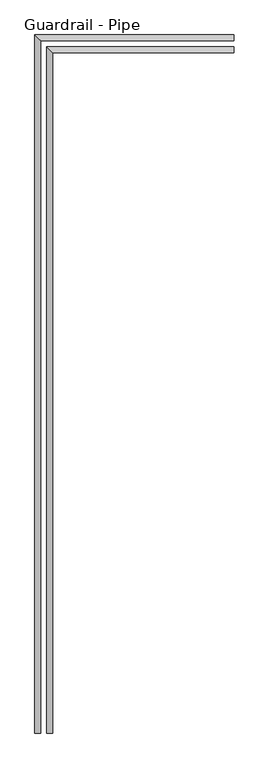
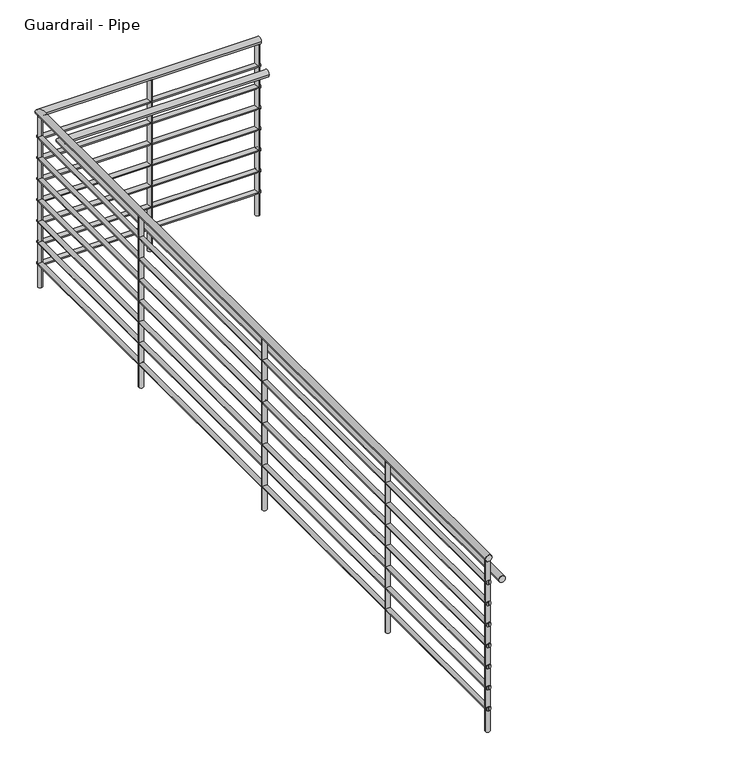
"""IFC4 building model written with IfcOpenShell, lengths in millimetres: railing geometry, Guardrail - Pipe."""

from ifc_helpers import new_model, si_unit, point, frame, frame_2d, origin, origin_with_axes, place, context, project, spatial, circle_curve, ellipse_curve, trimmed, segment, composite_curve, outline, extrude, source, transform, mapped, element, save
from ifc_brep_helpers import plane_surface, cylinder_surface, advanced_brep


def guardrail_pipe_2ce98fbd(model_context):
    return source(origin(), model_context, "Body", "SolidModel", [
        advanced_brep(
        [(-2073.0939612, 2865.859643, 1047.75), (-2073.0939612, 2903.959643, 1047.75), (-3304.9939612, 2865.859643, 1047.75), (-3343.0939612, 2903.959643, 1047.75), (-3304.9939612, -1546.6414366, 1047.75), (-3343.0939612, -1546.6414366, 1047.75)],
        [
            (0, 1, circle_curve(frame((-2073.0939612, 2884.909643, 1047.75), z_axis=(1.0, 0.0, 0.0), x_axis=(0.0, 1.0, 0.0)), 19.05)),
            (1, 0, circle_curve(frame((-2073.0939612, 2884.909643, 1047.75), z_axis=(1.0, 0.0, 0.0), x_axis=(0.0, 1.0, 0.0)), 19.05)),
            (0, 2),
            (2, 3, ellipse_curve(frame((-3324.0439612, 2884.909643, 1047.75), z_axis=(0.7071067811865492, 0.7071067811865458, 0.0), x_axis=(0.7071067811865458, -0.7071067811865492, 0.0)), 26.9407684, 19.05)),
            (3, 1),
            (3, 2, ellipse_curve(frame((-3324.0439612, 2884.909643, 1047.75), z_axis=(0.7071067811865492, 0.7071067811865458, 0.0), x_axis=(0.7071067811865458, -0.7071067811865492, 0.0)), 26.9407684, 19.05)),
            (4, 5, circle_curve(frame((-3324.0439612, -1546.6414366, 1047.75), z_axis=(0.0, -1.0, 0.0), x_axis=(-1.0, 0.0, 0.0)), 19.05)),
            (5, 4, circle_curve(frame((-3324.0439612, -1546.6414366, 1047.75), z_axis=(0.0, -1.0, 0.0), x_axis=(-1.0, 0.0, 0.0)), 19.05)),
            (2, 4),
            (5, 3),
        ],
        [
            plane_surface(frame((-2073.0939612, 2884.909643, 1066.8), z_axis=(1.0, 0.0, 0.0), x_axis=(0.0, -1.0, 0.0))),
            cylinder_surface(frame((-2073.0939612, 2884.909643, 1047.75), z_axis=(1.0, 0.0, 0.0), x_axis=(0.0, 1.0, 0.0)), 19.05),
            plane_surface(frame((-3324.0439612, -1546.6414366, 1066.8), z_axis=(0.0, -1.0, 0.0), x_axis=(0.0, 0.0, -1.0))),
            cylinder_surface(frame((-3324.0439612, 2884.909643, 1047.75), z_axis=(0.0, 1.0, 0.0), x_axis=(-1.0, 0.0, 0.0)), 19.05),
        ],
        [
            (0, [[1, 2]]),
            (1, [[-1, 3, 4, 5]]),
            (1, [[-2, -5, 6, -3]]),
            (2, [[7, 8]]),
            (3, [[-4, 9, -8, 10]]),
            (3, [[-6, -10, -7, -9]]),
        ],
    ),
        advanced_brep(
        [(-2073.0939612, 2872.209643, 901.7), (-2073.0939612, 2897.609643, 901.7), (-3311.3439612, 2872.209643, 901.7), (-3336.7439612, 2897.609643, 901.7), (-3311.3439612, -1546.6414366, 901.7), (-3336.7439612, -1546.6414366, 901.7)],
        [
            (0, 1, circle_curve(frame((-2073.0939612, 2884.909643, 901.7), z_axis=(1.0, 0.0, 0.0), x_axis=(0.0, 1.0, 0.0)), 12.7)),
            (1, 0, circle_curve(frame((-2073.0939612, 2884.909643, 901.7), z_axis=(1.0, 0.0, 0.0), x_axis=(0.0, 1.0, 0.0)), 12.7)),
            (0, 2),
            (2, 3, ellipse_curve(frame((-3324.0439612, 2884.909643, 901.7), z_axis=(0.7071067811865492, 0.7071067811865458, 0.0), x_axis=(0.7071067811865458, -0.7071067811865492, 0.0)), 17.9605122, 12.7)),
            (3, 1),
            (3, 2, ellipse_curve(frame((-3324.0439612, 2884.909643, 901.7), z_axis=(0.7071067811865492, 0.7071067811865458, 0.0), x_axis=(0.7071067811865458, -0.7071067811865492, 0.0)), 17.9605122, 12.7)),
            (4, 5, circle_curve(frame((-3324.0439612, -1546.6414366, 901.7), z_axis=(0.0, -1.0, 0.0), x_axis=(-1.0, 0.0, 0.0)), 12.7)),
            (5, 4, circle_curve(frame((-3324.0439612, -1546.6414366, 901.7), z_axis=(0.0, -1.0, 0.0), x_axis=(-1.0, 0.0, 0.0)), 12.7)),
            (2, 4),
            (5, 3),
        ],
        [
            plane_surface(frame((-2073.0939612, 2884.909643, 914.4), z_axis=(1.0, 0.0, 0.0), x_axis=(0.0, -1.0, 0.0))),
            cylinder_surface(frame((-2073.0939612, 2884.909643, 901.7), z_axis=(1.0, 0.0, 0.0), x_axis=(0.0, 1.0, 0.0)), 12.7),
            plane_surface(frame((-3324.0439612, -1546.6414366, 914.4), z_axis=(0.0, -1.0, 0.0), x_axis=(0.0, 0.0, -1.0))),
            cylinder_surface(frame((-3324.0439612, 2884.909643, 901.7), z_axis=(0.0, 1.0, 0.0), x_axis=(-1.0, 0.0, 0.0)), 12.7),
        ],
        [
            (0, [[1, 2]]),
            (1, [[-1, 3, 4, 5]]),
            (1, [[-2, -5, 6, -3]]),
            (2, [[7, 8]]),
            (3, [[-4, 9, -8, 10]]),
            (3, [[-6, -10, -7, -9]]),
        ],
    ),
        advanced_brep(
        [(-2073.0939612, 2789.659643, 895.35), (-2073.0939612, 2827.759643, 895.35), (-3228.7939612, 2789.659643, 895.35), (-3266.8939612, 2827.759643, 895.35), (-3228.7939612, -1546.6414366, 895.35), (-3266.8939612, -1546.6414366, 895.35)],
        [
            (0, 1, circle_curve(frame((-2073.0939612, 2808.709643, 895.35), z_axis=(1.0, 0.0, 0.0), x_axis=(0.0, 1.0, 0.0)), 19.05)),
            (1, 0, circle_curve(frame((-2073.0939612, 2808.709643, 895.35), z_axis=(1.0, 0.0, 0.0), x_axis=(0.0, 1.0, 0.0)), 19.05)),
            (0, 2),
            (2, 3, ellipse_curve(frame((-3247.8439612, 2808.709643, 895.35), z_axis=(0.7071067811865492, 0.7071067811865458, 0.0), x_axis=(0.7071067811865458, -0.7071067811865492, 0.0)), 26.9407684, 19.05)),
            (3, 1),
            (3, 2, ellipse_curve(frame((-3247.8439612, 2808.709643, 895.35), z_axis=(0.7071067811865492, 0.7071067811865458, 0.0), x_axis=(0.7071067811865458, -0.7071067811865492, 0.0)), 26.9407684, 19.05)),
            (4, 5, circle_curve(frame((-3247.8439612, -1546.6414366, 895.35), z_axis=(0.0, -1.0, 0.0), x_axis=(-1.0, 0.0, 0.0)), 19.05)),
            (5, 4, circle_curve(frame((-3247.8439612, -1546.6414366, 895.35), z_axis=(0.0, -1.0, 0.0), x_axis=(-1.0, 0.0, 0.0)), 19.05)),
            (2, 4),
            (5, 3),
        ],
        [
            plane_surface(frame((-2073.0939612, 2808.709643, 914.4), z_axis=(1.0, 0.0, 0.0), x_axis=(0.0, -1.0, 0.0))),
            cylinder_surface(frame((-2073.0939612, 2808.709643, 895.35), z_axis=(1.0, 0.0, 0.0), x_axis=(0.0, 1.0, 0.0)), 19.05),
            plane_surface(frame((-3247.8439612, -1546.6414366, 914.4), z_axis=(0.0, -1.0, 0.0), x_axis=(0.0, 0.0, -1.0))),
            cylinder_surface(frame((-3247.8439612, 2808.709643, 895.35), z_axis=(0.0, 1.0, 0.0), x_axis=(-1.0, 0.0, 0.0)), 19.05),
        ],
        [
            (0, [[1, 2]]),
            (1, [[-1, 3, 4, 5]]),
            (1, [[-2, -5, 6, -3]]),
            (2, [[7, 8]]),
            (3, [[-4, 9, -8, 10]]),
            (3, [[-6, -10, -7, -9]]),
        ],
    ),
        advanced_brep(
        [(-2073.0939612, 2872.209643, 774.7), (-2073.0939612, 2897.609643, 774.7), (-3311.3439612, 2872.209643, 774.7), (-3336.7439612, 2897.609643, 774.7), (-3311.3439612, -1546.6414366, 774.7), (-3336.7439612, -1546.6414366, 774.7)],
        [
            (0, 1, circle_curve(frame((-2073.0939612, 2884.909643, 774.7), z_axis=(1.0, 0.0, 0.0), x_axis=(0.0, 1.0, 0.0)), 12.7)),
            (1, 0, circle_curve(frame((-2073.0939612, 2884.909643, 774.7), z_axis=(1.0, 0.0, 0.0), x_axis=(0.0, 1.0, 0.0)), 12.7)),
            (0, 2),
            (2, 3, ellipse_curve(frame((-3324.0439612, 2884.909643, 774.7), z_axis=(0.7071067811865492, 0.7071067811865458, 0.0), x_axis=(0.7071067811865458, -0.7071067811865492, 0.0)), 17.9605122, 12.7)),
            (3, 1),
            (3, 2, ellipse_curve(frame((-3324.0439612, 2884.909643, 774.7), z_axis=(0.7071067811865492, 0.7071067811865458, 0.0), x_axis=(0.7071067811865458, -0.7071067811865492, 0.0)), 17.9605122, 12.7)),
            (4, 5, circle_curve(frame((-3324.0439612, -1546.6414366, 774.7), z_axis=(0.0, -1.0, 0.0), x_axis=(-1.0, 0.0, 0.0)), 12.7)),
            (5, 4, circle_curve(frame((-3324.0439612, -1546.6414366, 774.7), z_axis=(0.0, -1.0, 0.0), x_axis=(-1.0, 0.0, 0.0)), 12.7)),
            (2, 4),
            (5, 3),
        ],
        [
            plane_surface(frame((-2073.0939612, 2884.909643, 787.4), z_axis=(1.0, 0.0, 0.0), x_axis=(0.0, -1.0, 0.0))),
            cylinder_surface(frame((-2073.0939612, 2884.909643, 774.7), z_axis=(1.0, 0.0, 0.0), x_axis=(0.0, 1.0, 0.0)), 12.7),
            plane_surface(frame((-3324.0439612, -1546.6414366, 787.4), z_axis=(0.0, -1.0, 0.0), x_axis=(0.0, 0.0, -1.0))),
            cylinder_surface(frame((-3324.0439612, 2884.909643, 774.7), z_axis=(0.0, 1.0, 0.0), x_axis=(-1.0, 0.0, 0.0)), 12.7),
        ],
        [
            (0, [[1, 2]]),
            (1, [[-1, 3, 4, 5]]),
            (1, [[-2, -5, 6, -3]]),
            (2, [[7, 8]]),
            (3, [[-4, 9, -8, 10]]),
            (3, [[-6, -10, -7, -9]]),
        ],
    ),
        advanced_brep(
        [(-2073.0939612, 2872.209643, 647.7), (-2073.0939612, 2897.609643, 647.7), (-3311.3439612, 2872.209643, 647.7), (-3336.7439612, 2897.609643, 647.7), (-3311.3439612, -1546.6414366, 647.7), (-3336.7439612, -1546.6414366, 647.7)],
        [
            (0, 1, circle_curve(frame((-2073.0939612, 2884.909643, 647.7), z_axis=(1.0, 0.0, 0.0), x_axis=(0.0, 1.0, 0.0)), 12.7)),
            (1, 0, circle_curve(frame((-2073.0939612, 2884.909643, 647.7), z_axis=(1.0, 0.0, 0.0), x_axis=(0.0, 1.0, 0.0)), 12.7)),
            (0, 2),
            (2, 3, ellipse_curve(frame((-3324.0439612, 2884.909643, 647.7), z_axis=(0.7071067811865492, 0.7071067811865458, 0.0), x_axis=(0.7071067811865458, -0.7071067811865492, 0.0)), 17.9605122, 12.7)),
            (3, 1),
            (3, 2, ellipse_curve(frame((-3324.0439612, 2884.909643, 647.7), z_axis=(0.7071067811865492, 0.7071067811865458, 0.0), x_axis=(0.7071067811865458, -0.7071067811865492, 0.0)), 17.9605122, 12.7)),
            (4, 5, circle_curve(frame((-3324.0439612, -1546.6414366, 647.7), z_axis=(0.0, -1.0, 0.0), x_axis=(-1.0, 0.0, 0.0)), 12.7)),
            (5, 4, circle_curve(frame((-3324.0439612, -1546.6414366, 647.7), z_axis=(0.0, -1.0, 0.0), x_axis=(-1.0, 0.0, 0.0)), 12.7)),
            (2, 4),
            (5, 3),
        ],
        [
            plane_surface(frame((-2073.0939612, 2884.909643, 660.4), z_axis=(1.0, 0.0, 0.0), x_axis=(0.0, -1.0, 0.0))),
            cylinder_surface(frame((-2073.0939612, 2884.909643, 647.7), z_axis=(1.0, 0.0, 0.0), x_axis=(0.0, 1.0, 0.0)), 12.7),
            plane_surface(frame((-3324.0439612, -1546.6414366, 660.4), z_axis=(0.0, -1.0, 0.0), x_axis=(0.0, 0.0, -1.0))),
            cylinder_surface(frame((-3324.0439612, 2884.909643, 647.7), z_axis=(0.0, 1.0, 0.0), x_axis=(-1.0, 0.0, 0.0)), 12.7),
        ],
        [
            (0, [[1, 2]]),
            (1, [[-1, 3, 4, 5]]),
            (1, [[-2, -5, 6, -3]]),
            (2, [[7, 8]]),
            (3, [[-4, 9, -8, 10]]),
            (3, [[-6, -10, -7, -9]]),
        ],
    ),
        advanced_brep(
        [(-2073.0939612, 2872.209643, 520.7), (-2073.0939612, 2897.609643, 520.7), (-3311.3439612, 2872.209643, 520.7), (-3336.7439612, 2897.609643, 520.7), (-3311.3439612, -1546.6414366, 520.7), (-3336.7439612, -1546.6414366, 520.7)],
        [
            (0, 1, circle_curve(frame((-2073.0939612, 2884.909643, 520.7), z_axis=(1.0, 0.0, 0.0), x_axis=(0.0, 1.0, 0.0)), 12.7)),
            (1, 0, circle_curve(frame((-2073.0939612, 2884.909643, 520.7), z_axis=(1.0, 0.0, 0.0), x_axis=(0.0, 1.0, 0.0)), 12.7)),
            (0, 2),
            (2, 3, ellipse_curve(frame((-3324.0439612, 2884.909643, 520.7), z_axis=(0.7071067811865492, 0.7071067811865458, 0.0), x_axis=(0.7071067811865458, -0.7071067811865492, 0.0)), 17.9605122, 12.7)),
            (3, 1),
            (3, 2, ellipse_curve(frame((-3324.0439612, 2884.909643, 520.7), z_axis=(0.7071067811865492, 0.7071067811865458, 0.0), x_axis=(0.7071067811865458, -0.7071067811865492, 0.0)), 17.9605122, 12.7)),
            (4, 5, circle_curve(frame((-3324.0439612, -1546.6414366, 520.7), z_axis=(0.0, -1.0, 0.0), x_axis=(-1.0, 0.0, 0.0)), 12.7)),
            (5, 4, circle_curve(frame((-3324.0439612, -1546.6414366, 520.7), z_axis=(0.0, -1.0, 0.0), x_axis=(-1.0, 0.0, 0.0)), 12.7)),
            (2, 4),
            (5, 3),
        ],
        [
            plane_surface(frame((-2073.0939612, 2884.909643, 533.4), z_axis=(1.0, 0.0, 0.0), x_axis=(0.0, -1.0, 0.0))),
            cylinder_surface(frame((-2073.0939612, 2884.909643, 520.7), z_axis=(1.0, 0.0, 0.0), x_axis=(0.0, 1.0, 0.0)), 12.7),
            plane_surface(frame((-3324.0439612, -1546.6414366, 533.4), z_axis=(0.0, -1.0, 0.0), x_axis=(0.0, 0.0, -1.0))),
            cylinder_surface(frame((-3324.0439612, 2884.909643, 520.7), z_axis=(0.0, 1.0, 0.0), x_axis=(-1.0, 0.0, 0.0)), 12.7),
        ],
        [
            (0, [[1, 2]]),
            (1, [[-1, 3, 4, 5]]),
            (1, [[-2, -5, 6, -3]]),
            (2, [[7, 8]]),
            (3, [[-4, 9, -8, 10]]),
            (3, [[-6, -10, -7, -9]]),
        ],
    ),
        advanced_brep(
        [(-2073.0939612, 2872.209643, 393.7), (-2073.0939612, 2897.609643, 393.7), (-3311.3439612, 2872.209643, 393.7), (-3336.7439612, 2897.609643, 393.7), (-3311.3439612, -1546.6414366, 393.7), (-3336.7439612, -1546.6414366, 393.7)],
        [
            (0, 1, circle_curve(frame((-2073.0939612, 2884.909643, 393.7), z_axis=(1.0, 0.0, 0.0), x_axis=(0.0, 1.0, 0.0)), 12.7)),
            (1, 0, circle_curve(frame((-2073.0939612, 2884.909643, 393.7), z_axis=(1.0, 0.0, 0.0), x_axis=(0.0, 1.0, 0.0)), 12.7)),
            (0, 2),
            (2, 3, ellipse_curve(frame((-3324.0439612, 2884.909643, 393.7), z_axis=(0.7071067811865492, 0.7071067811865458, 0.0), x_axis=(0.7071067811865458, -0.7071067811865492, 0.0)), 17.9605122, 12.7)),
            (3, 1),
            (3, 2, ellipse_curve(frame((-3324.0439612, 2884.909643, 393.7), z_axis=(0.7071067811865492, 0.7071067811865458, 0.0), x_axis=(0.7071067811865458, -0.7071067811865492, 0.0)), 17.9605122, 12.7)),
            (4, 5, circle_curve(frame((-3324.0439612, -1546.6414366, 393.7), z_axis=(0.0, -1.0, 0.0), x_axis=(-1.0, 0.0, 0.0)), 12.7)),
            (5, 4, circle_curve(frame((-3324.0439612, -1546.6414366, 393.7), z_axis=(0.0, -1.0, 0.0), x_axis=(-1.0, 0.0, 0.0)), 12.7)),
            (2, 4),
            (5, 3),
        ],
        [
            plane_surface(frame((-2073.0939612, 2884.909643, 406.4), z_axis=(1.0, 0.0, 0.0), x_axis=(0.0, -1.0, 0.0))),
            cylinder_surface(frame((-2073.0939612, 2884.909643, 393.7), z_axis=(1.0, 0.0, 0.0), x_axis=(0.0, 1.0, 0.0)), 12.7),
            plane_surface(frame((-3324.0439612, -1546.6414366, 406.4), z_axis=(0.0, -1.0, 0.0), x_axis=(0.0, 0.0, -1.0))),
            cylinder_surface(frame((-3324.0439612, 2884.909643, 393.7), z_axis=(0.0, 1.0, 0.0), x_axis=(-1.0, 0.0, 0.0)), 12.7),
        ],
        [
            (0, [[1, 2]]),
            (1, [[-1, 3, 4, 5]]),
            (1, [[-2, -5, 6, -3]]),
            (2, [[7, 8]]),
            (3, [[-4, 9, -8, 10]]),
            (3, [[-6, -10, -7, -9]]),
        ],
    ),
        advanced_brep(
        [(-2073.0939612, 2872.209643, 266.7), (-2073.0939612, 2897.609643, 266.7), (-3311.3439612, 2872.209643, 266.7), (-3336.7439612, 2897.609643, 266.7), (-3311.3439612, -1546.6414366, 266.7), (-3336.7439612, -1546.6414366, 266.7)],
        [
            (0, 1, circle_curve(frame((-2073.0939612, 2884.909643, 266.7), z_axis=(1.0, 0.0, 0.0), x_axis=(0.0, 1.0, 0.0)), 12.7)),
            (1, 0, circle_curve(frame((-2073.0939612, 2884.909643, 266.7), z_axis=(1.0, 0.0, 0.0), x_axis=(0.0, 1.0, 0.0)), 12.7)),
            (0, 2),
            (2, 3, ellipse_curve(frame((-3324.0439612, 2884.909643, 266.7), z_axis=(0.7071067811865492, 0.7071067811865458, 0.0), x_axis=(0.7071067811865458, -0.7071067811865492, 0.0)), 17.9605122, 12.7)),
            (3, 1),
            (3, 2, ellipse_curve(frame((-3324.0439612, 2884.909643, 266.7), z_axis=(0.7071067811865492, 0.7071067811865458, 0.0), x_axis=(0.7071067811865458, -0.7071067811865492, 0.0)), 17.9605122, 12.7)),
            (4, 5, circle_curve(frame((-3324.0439612, -1546.6414366, 266.7), z_axis=(0.0, -1.0, 0.0), x_axis=(-1.0, 0.0, 0.0)), 12.7)),
            (5, 4, circle_curve(frame((-3324.0439612, -1546.6414366, 266.7), z_axis=(0.0, -1.0, 0.0), x_axis=(-1.0, 0.0, 0.0)), 12.7)),
            (2, 4),
            (5, 3),
        ],
        [
            plane_surface(frame((-2073.0939612, 2884.909643, 279.4), z_axis=(1.0, 0.0, 0.0), x_axis=(0.0, -1.0, 0.0))),
            cylinder_surface(frame((-2073.0939612, 2884.909643, 266.7), z_axis=(1.0, 0.0, 0.0), x_axis=(0.0, 1.0, 0.0)), 12.7),
            plane_surface(frame((-3324.0439612, -1546.6414366, 279.4), z_axis=(0.0, -1.0, 0.0), x_axis=(0.0, 0.0, -1.0))),
            cylinder_surface(frame((-3324.0439612, 2884.909643, 266.7), z_axis=(0.0, 1.0, 0.0), x_axis=(-1.0, 0.0, 0.0)), 12.7),
        ],
        [
            (0, [[1, 2]]),
            (1, [[-1, 3, 4, 5]]),
            (1, [[-2, -5, 6, -3]]),
            (2, [[7, 8]]),
            (3, [[-4, 9, -8, 10]]),
            (3, [[-6, -10, -7, -9]]),
        ],
    ),
        advanced_brep(
        [(-2073.0939612, 2872.209643, 139.7), (-2073.0939612, 2897.609643, 139.7), (-3311.3439612, 2872.209643, 139.7), (-3336.7439612, 2897.609643, 139.7), (-3311.3439612, -1546.6414366, 139.7), (-3336.7439612, -1546.6414366, 139.7)],
        [
            (0, 1, circle_curve(frame((-2073.0939612, 2884.909643, 139.7), z_axis=(1.0, 0.0, 0.0), x_axis=(0.0, 1.0, 0.0)), 12.7)),
            (1, 0, circle_curve(frame((-2073.0939612, 2884.909643, 139.7), z_axis=(1.0, 0.0, 0.0), x_axis=(0.0, 1.0, 0.0)), 12.7)),
            (0, 2),
            (2, 3, ellipse_curve(frame((-3324.0439612, 2884.909643, 139.7), z_axis=(0.7071067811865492, 0.7071067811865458, 0.0), x_axis=(0.7071067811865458, -0.7071067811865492, 0.0)), 17.9605122, 12.7)),
            (3, 1),
            (3, 2, ellipse_curve(frame((-3324.0439612, 2884.909643, 139.7), z_axis=(0.7071067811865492, 0.7071067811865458, 0.0), x_axis=(0.7071067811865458, -0.7071067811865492, 0.0)), 17.9605122, 12.7)),
            (4, 5, circle_curve(frame((-3324.0439612, -1546.6414366, 139.7), z_axis=(0.0, -1.0, 0.0), x_axis=(-1.0, 0.0, 0.0)), 12.7)),
            (5, 4, circle_curve(frame((-3324.0439612, -1546.6414366, 139.7), z_axis=(0.0, -1.0, 0.0), x_axis=(-1.0, 0.0, 0.0)), 12.7)),
            (2, 4),
            (5, 3),
        ],
        [
            plane_surface(frame((-2073.0939612, 2884.909643, 152.4), z_axis=(1.0, 0.0, 0.0), x_axis=(0.0, -1.0, 0.0))),
            cylinder_surface(frame((-2073.0939612, 2884.909643, 139.7), z_axis=(1.0, 0.0, 0.0), x_axis=(0.0, 1.0, 0.0)), 12.7),
            plane_surface(frame((-3324.0439612, -1546.6414366, 152.4), z_axis=(0.0, -1.0, 0.0), x_axis=(0.0, 0.0, -1.0))),
            cylinder_surface(frame((-3324.0439612, 2884.909643, 139.7), z_axis=(0.0, 1.0, 0.0), x_axis=(-1.0, 0.0, 0.0)), 12.7),
        ],
        [
            (0, [[1, 2]]),
            (1, [[-1, 3, 4, 5]]),
            (1, [[-2, -5, 6, -3]]),
            (2, [[7, 8]]),
            (3, [[-4, 9, -8, 10]]),
            (3, [[-6, -10, -7, -9]]),
        ],
    ),
        extrude(outline(composite_curve([segment(trimmed(circle_curve(frame_2d((-3324.0439612, -550.0658968)), 12.7), [point((-3336.7439612, -550.0658968))], [point((-3311.3439612, -550.0658968))], False, "CARTESIAN"), True, "CONTINUOUS"), segment(trimmed(circle_curve(frame_2d((-3324.0439612, -550.0658968)), 12.7), [point((-3311.3439612, -550.0658968))], [point((-3336.7439612, -550.0658968))], False, "CARTESIAN"), True, "CONTINUOUS")], self_intersect=False)), origin_with_axes(), (0.0, 0.0, 1.0), 1028.7),
        extrude(outline(composite_curve([segment(trimmed(circle_curve(frame_2d((-3324.0439612, 669.1341032)), 12.7), [point((-3336.7439612, 669.1341032))], [point((-3311.3439612, 669.1341032))], False, "CARTESIAN"), True, "CONTINUOUS"), segment(trimmed(circle_curve(frame_2d((-3324.0439612, 669.1341032)), 12.7), [point((-3311.3439612, 669.1341032))], [point((-3336.7439612, 669.1341032))], False, "CARTESIAN"), True, "CONTINUOUS")], self_intersect=False)), origin_with_axes(), (0.0, 0.0, 1.0), 1028.7),
        extrude(outline(composite_curve([segment(trimmed(circle_curve(frame_2d((-3324.0439612, 1888.3341032)), 12.7), [point((-3336.7439612, 1888.3341032))], [point((-3311.3439612, 1888.3341032))], False, "CARTESIAN"), True, "CONTINUOUS"), segment(trimmed(circle_curve(frame_2d((-3324.0439612, 1888.3341032)), 12.7), [point((-3311.3439612, 1888.3341032))], [point((-3336.7439612, 1888.3341032))], False, "CARTESIAN"), True, "CONTINUOUS")], self_intersect=False)), origin_with_axes(), (0.0, 0.0, 1.0), 1028.7),
        extrude(outline(composite_curve([segment(trimmed(circle_curve(frame_2d((-2698.5689612, 2884.909643)), 12.7), [point((-2698.5689612, 2897.609643))], [point((-2698.5689612, 2872.209643))], False, "CARTESIAN"), True, "CONTINUOUS"), segment(trimmed(circle_curve(frame_2d((-2698.5689612, 2884.909643)), 12.7), [point((-2698.5689612, 2872.209643))], [point((-2698.5689612, 2897.609643))], False, "CARTESIAN"), True, "CONTINUOUS")], self_intersect=False)), origin_with_axes(), (0.0, 0.0, 1.0), 1028.7),
        extrude(outline(composite_curve([segment(trimmed(circle_curve(frame_2d((-3324.0439612, 2884.909643)), 12.7), [point((-3324.0439612, 2897.609643))], [point((-3324.0439612, 2872.209643))], False, "CARTESIAN"), True, "CONTINUOUS"), segment(trimmed(circle_curve(frame_2d((-3324.0439612, 2884.909643)), 12.7), [point((-3324.0439612, 2872.209643))], [point((-3324.0439612, 2897.609643))], False, "CARTESIAN"), True, "CONTINUOUS")], self_intersect=False)), origin_with_axes(), (0.0, 0.0, 1.0), 1028.7),
        extrude(outline(composite_curve([segment(trimmed(circle_curve(frame_2d((-3324.0439612, -1534.2598521)), 12.7), [point((-3336.7439612, -1534.2598521))], [point((-3311.3439612, -1534.2598521))], False, "CARTESIAN"), True, "CONTINUOUS"), segment(trimmed(circle_curve(frame_2d((-3324.0439612, -1534.2598521)), 12.7), [point((-3311.3439612, -1534.2598521))], [point((-3336.7439612, -1534.2598521))], False, "CARTESIAN"), True, "CONTINUOUS")], self_intersect=False)), origin_with_axes(), (0.0, 0.0, 1.0), 1028.7),
        extrude(outline(composite_curve([segment(trimmed(circle_curve(frame_2d((-2085.4755457, 2884.909643)), 12.7), [point((-2085.4755457, 2897.609643))], [point((-2085.4755457, 2872.209643))], False, "CARTESIAN"), True, "CONTINUOUS"), segment(trimmed(circle_curve(frame_2d((-2085.4755457, 2884.909643)), 12.7), [point((-2085.4755457, 2872.209643))], [point((-2085.4755457, 2897.609643))], False, "CARTESIAN"), True, "CONTINUOUS")], self_intersect=False)), origin_with_axes(), (0.0, 0.0, 1.0), 1028.7),
    ])


if __name__ == "__main__":
    model = new_model("IFC4")
    model_context = context("Model", 3, world=origin())
    ifc_project = project(units=[si_unit("LENGTHUNIT", "METRE", prefix="MILLI")], contexts=[model_context])
    site = spatial("IfcSite", under=ifc_project)
    building = spatial("IfcBuilding", under=site)
    placement = place(None, origin())
    guardrail_pipe_shape = guardrail_pipe_2ce98fbd(model_context)
    element("IfcRailing", 1, ObjectType="Guardrail - Pipe", at=placement, inside=building, context=model_context, shape_type="MappedRepresentation", body=[
        mapped(guardrail_pipe_shape, transform((0.0, 0.0, 0.0), x_axis=(1.0, 0.0, 0.0), y_axis=(0.0, 1.0, 0.0), z_axis=(0.0, 0.0, 1.0))),
    ])
    save(model, "model.ifc")
